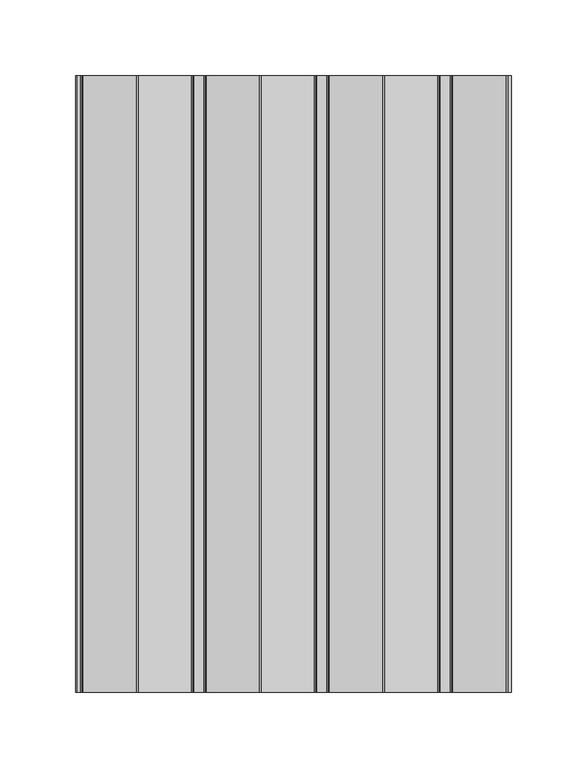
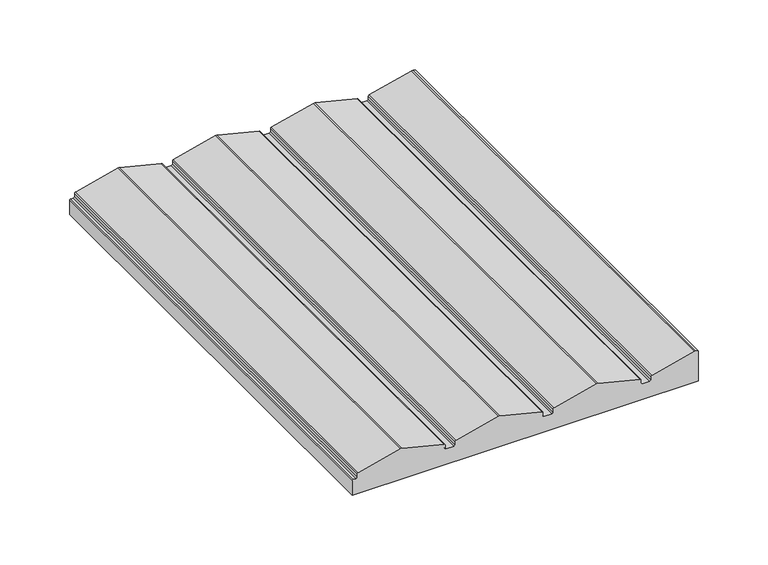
"""IFC4 building model written with IfcOpenShell, lengths in millimetres: proxy geometry, Spinneybeck_Porto 2 : Porto 2."""

from ifc_helpers import new_model, si_unit, point, frame, frame_2d, origin, place, context, project, spatial, polyline, circle_curve, trimmed, segment, composite_curve, outline, extrude, source, transform, mapped, element, save


def specialty_equipment_7f9fb075(model_context):
    return source(origin(), model_context, "Body", "SweptSolid", [
        extrude(outline(composite_curve([segment(polyline([(0.0, -203.2), (0.0, 84.1375), (26.2875452, 84.1375), (26.7965213, 82.0961084)]), True, "CONTINUOUS"), segment(trimmed(circle_curve(frame_2d((23.5232893, 81.28)), 3.3734375), [point((26.7965213, 82.0961084))], [point((26.7965213, 80.4638916))], False, "CARTESIAN"), True, "CONTINUOUS"), segment(polyline([(26.7965213, 80.4638916), (18.1109851, 45.6281084)]), True, "CONTINUOUS"), segment(trimmed(circle_curve(frame_2d((17.1606187, 45.8650613)), 0.9794605), [point((18.1109851, 45.6281084))], [point((17.1606187, 44.8856008))], False, "CARTESIAN"), True, "CONTINUOUS"), segment(polyline([(17.1606187, 44.8856008), (14.4921875, 44.8856008)]), True, "CONTINUOUS"), segment(trimmed(circle_curve(frame_2d((14.4921875, 43.8934133)), 0.9921875), [point((14.4921875, 44.8856008))], [point((13.5, 43.8934133))], True, "CARTESIAN"), True, "CONTINUOUS"), segment(polyline([(13.5, 43.8934133), (13.5, 37.3865867)]), True, "CONTINUOUS"), segment(trimmed(circle_curve(frame_2d((14.4921875, 37.3865867)), 0.9921875), [point((13.5, 37.3865867))], [point((14.4921875, 36.3943992))], True, "CARTESIAN"), True, "CONTINUOUS"), segment(polyline([(14.4921875, 36.3943992), (17.1606187, 36.3943992)]), True, "CONTINUOUS"), segment(trimmed(circle_curve(frame_2d((17.1606187, 35.4149387)), 0.9794605), [point((17.1606187, 36.3943992))], [point((18.1109851, 35.6518916))], False, "CARTESIAN"), True, "CONTINUOUS"), segment(polyline([(18.1109851, 35.6518916), (26.7965213, 0.8161084)]), True, "CONTINUOUS"), segment(trimmed(circle_curve(frame_2d((23.5232893, 0.0)), 3.3734375), [point((26.7965213, 0.8161084))], [point((26.7965213, -0.8161084))], False, "CARTESIAN"), True, "CONTINUOUS"), segment(polyline([(26.7965213, -0.8161084), (18.1109851, -35.6518916)]), True, "CONTINUOUS"), segment(trimmed(circle_curve(frame_2d((17.1606187, -35.4149387)), 0.9794605), [point((18.1109851, -35.6518916))], [point((17.1606187, -36.3943992))], False, "CARTESIAN"), True, "CONTINUOUS"), segment(polyline([(17.1606187, -36.3943992), (14.4921875, -36.3943992)]), True, "CONTINUOUS"), segment(trimmed(circle_curve(frame_2d((14.4921875, -37.3865867)), 0.9921875), [point((14.4921875, -36.3943992))], [point((13.5, -37.3865867))], True, "CARTESIAN"), True, "CONTINUOUS"), segment(polyline([(13.5, -37.3865867), (13.5, -43.8934133)]), True, "CONTINUOUS"), segment(trimmed(circle_curve(frame_2d((14.4921875, -43.8934133)), 0.9921875), [point((13.5, -43.8934133))], [point((14.4921875, -44.8856008))], True, "CARTESIAN"), True, "CONTINUOUS"), segment(polyline([(14.4921875, -44.8856008), (17.1606187, -44.8856008)]), True, "CONTINUOUS"), segment(trimmed(circle_curve(frame_2d((17.1606187, -45.8650613)), 0.9794605), [point((17.1606187, -44.8856008))], [point((18.1109851, -45.6281084))], False, "CARTESIAN"), True, "CONTINUOUS"), segment(polyline([(18.1109851, -45.6281084), (26.7965213, -80.4638916)]), True, "CONTINUOUS"), segment(trimmed(circle_curve(frame_2d((23.5232893, -81.28)), 3.3734375), [point((26.7965213, -80.4638916))], [point((26.7965213, -82.0961084))], False, "CARTESIAN"), True, "CONTINUOUS"), segment(polyline([(26.7965213, -82.0961084), (18.1109851, -116.9318916)]), True, "CONTINUOUS"), segment(trimmed(circle_curve(frame_2d((17.1606187, -116.6949387)), 0.9794605), [point((18.1109851, -116.9318916))], [point((17.1606187, -117.6743992))], False, "CARTESIAN"), True, "CONTINUOUS"), segment(polyline([(17.1606187, -117.6743992), (14.4921875, -117.6743992)]), True, "CONTINUOUS"), segment(trimmed(circle_curve(frame_2d((14.4921875, -118.6665867)), 0.9921875), [point((14.4921875, -117.6743992))], [point((13.5, -118.6665867))], True, "CARTESIAN"), True, "CONTINUOUS"), segment(polyline([(13.5, -118.6665867), (13.5, -125.1734133)]), True, "CONTINUOUS"), segment(trimmed(circle_curve(frame_2d((14.4921875, -125.1734133)), 0.9921875), [point((13.5, -125.1734133))], [point((14.4921875, -126.1656008))], True, "CARTESIAN"), True, "CONTINUOUS"), segment(polyline([(14.4921875, -126.1656008), (17.1606187, -126.1656008)]), True, "CONTINUOUS"), segment(trimmed(circle_curve(frame_2d((17.1606187, -127.1450613)), 0.9794605), [point((17.1606187, -126.1656008))], [point((18.1109851, -126.9081084))], False, "CARTESIAN"), True, "CONTINUOUS"), segment(polyline([(18.1109851, -126.9081084), (26.7972605, -161.7468564)]), True, "CONTINUOUS"), segment(trimmed(circle_curve(frame_2d((23.5359198, -162.56)), 3.3611822), [point((26.7972605, -161.7468564))], [point((26.7972605, -163.3731436))], False, "CARTESIAN"), True, "CONTINUOUS"), segment(polyline([(26.7972605, -163.3731436), (18.1109851, -198.2118916)]), True, "CONTINUOUS"), segment(trimmed(circle_curve(frame_2d((17.1606187, -197.9749387)), 0.9794605), [point((18.1109851, -198.2118916))], [point((17.1606187, -198.9543992))], False, "CARTESIAN"), True, "CONTINUOUS"), segment(polyline([(17.1606187, -198.9543992), (14.4921875, -198.9543992)]), True, "CONTINUOUS"), segment(trimmed(circle_curve(frame_2d((14.4921875, -199.9465867)), 0.9921875), [point((14.4921875, -198.9543992))], [point((13.5, -199.9465867))], True, "CARTESIAN"), True, "CONTINUOUS"), segment(polyline([(13.5, -199.9465867), (13.5, -202.2078125)]), True, "CONTINUOUS"), segment(trimmed(circle_curve(frame_2d((12.5078125, -202.2078125)), 0.9921875), [point((13.5, -202.2078125))], [point((12.5078125, -203.2))], False, "CARTESIAN"), True, "CONTINUOUS"), segment(polyline([(12.5078125, -203.2), (0.0, -203.2)]), True, "CONTINUOUS")], self_intersect=False)), frame((0.0, -203.2, 0.0), z_axis=(0.0, 1.0, 0.0), x_axis=(0.0, 0.0, 1.0)), (0.0, 0.0, 1.0), 406.4),
    ])


if __name__ == "__main__":
    model = new_model("IFC4")
    model_context = context("Model", 3, world=origin())
    ifc_project = project(units=[si_unit("LENGTHUNIT", "METRE", prefix="MILLI")], contexts=[model_context])
    site = spatial("IfcSite", under=ifc_project)
    building = spatial("IfcBuilding", under=site)
    placement = place(None, origin())
    specialty_equipment_shape = specialty_equipment_7f9fb075(model_context)
    element("IfcBuildingElementProxy", 1, Name="Spinneybeck_Porto 2 : Porto 2", ObjectType="Spinneybeck_Porto 2 : Porto 2", at=placement, inside=building, context=model_context, shape_type="MappedRepresentation", body=[
        mapped(specialty_equipment_shape, transform((0.0, 0.0, 0.0), x_axis=(1.0, 0.0, 0.0), y_axis=(0.0, 1.0, 0.0), z_axis=(0.0, 0.0, 1.0))),
    ])
    save(model, "model.ifc")
